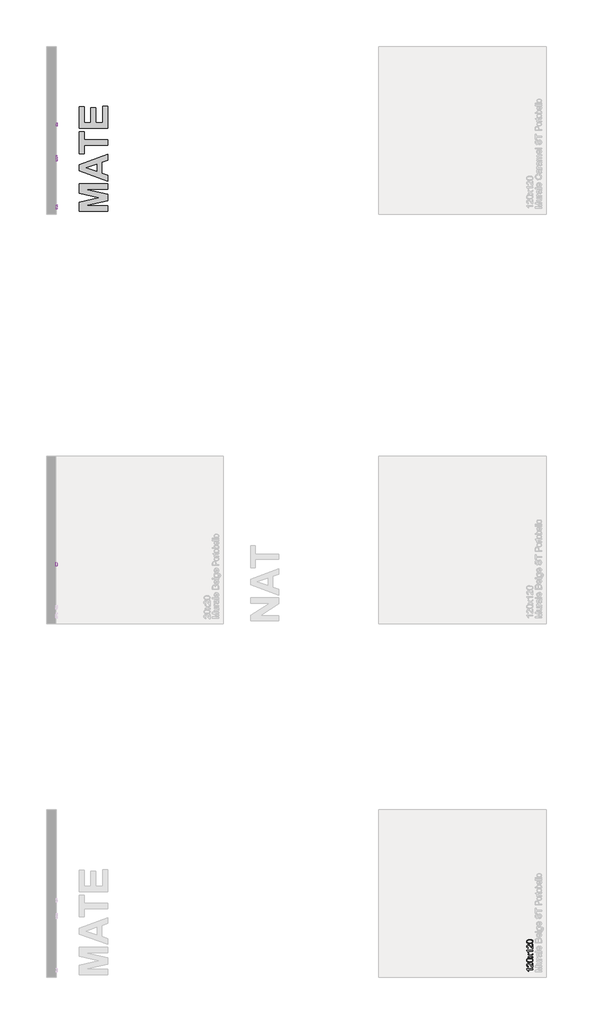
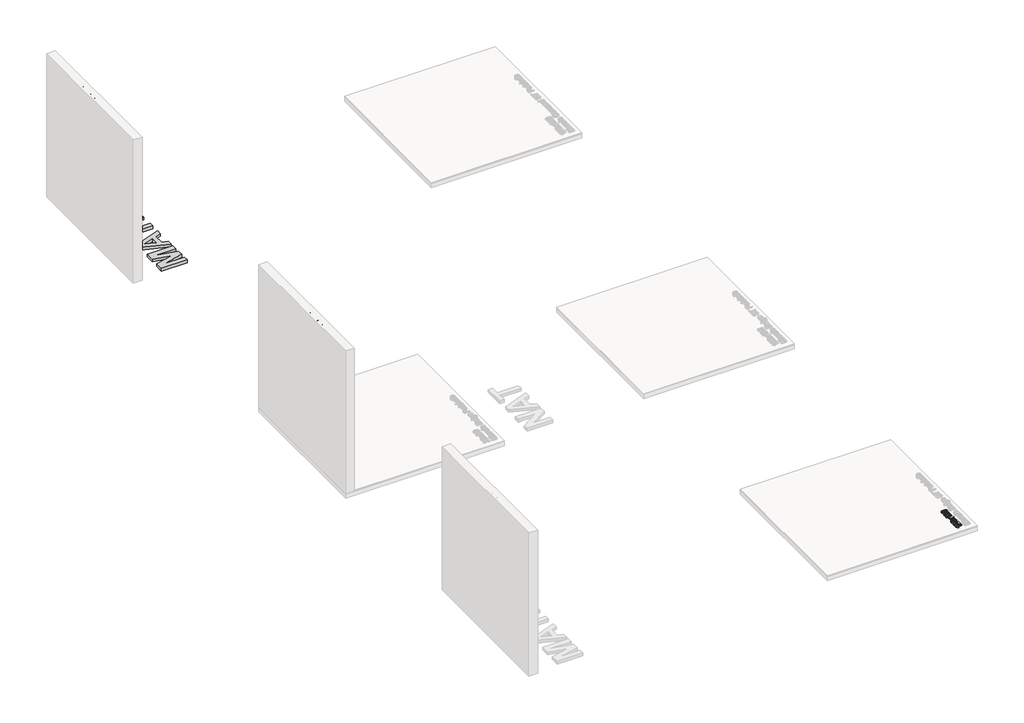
# One storey, part 12 of 21: 6 proxies.
"""IFC4 building model written with IfcOpenShell, lengths in millimetres."""

import ifcopenshell
import ifcopenshell.guid

model = None  # the IFC model being written
_history = None  # IfcOwnerHistory: only IFC2X3 demands one
_inside = {}  # id of a spatial element -> (the spatial element, [elements in it])
_under = {}  # id of a project, library or spatial element -> (it, [spatial elements below it])
_declared = {}  # id of a project -> (the project, [libraries it declares])
_typed = {}  # id of a type object -> (the type object, [elements of that type])
_made_of = {}  # id of a material, layer set ... -> (it, [elements and type objects made of it])


def new_model(schema):
    """Start an empty IFC model of exactly this schema.

    Asked for "IFC4X3", IfcOpenShell would pick the latest addendum, in which some entities
    have other attributes; the version numbers below select the first issue.
    IFC2X3 requires an IfcOwnerHistory on every rooted entity: one is made here for all.
    """
    global model, _history
    if schema == "IFC4X3":
        model = ifcopenshell.file(schema_version=(4, 3, 0, 0))
    else:
        model = ifcopenshell.file(schema=schema)
    _inside.clear()
    _under.clear()
    _declared.clear()
    _typed.clear()
    _made_of.clear()
    _history = None
    if model.schema == "IFC2X3":
        org = make("IfcOrganization", Name="unknown")
        user = make(
            "IfcPersonAndOrganization",
            ThePerson=make("IfcPerson", FamilyName="unknown"),
            TheOrganization=org,
        )
        app = make(
            "IfcApplication",
            ApplicationDeveloper=org,
            Version="unknown",
            ApplicationFullName="unknown",
            ApplicationIdentifier="unknown",
        )
        _history = make(
            "IfcOwnerHistory",
            OwningUser=user,
            OwningApplication=app,
            ChangeAction="ADDED",
            CreationDate=0,
        )
    return model


def make(cls, **values):
    """One entity of the class cls with the attributes given. An attribute that is None is left unset."""
    return model.create_entity(
        cls, **{name: value for name, value in values.items() if value is not None}
    )


def rooted(cls, **values):
    """An entity with a GlobalId (a new one), such as an element, a storey or a relation."""
    return make(cls, GlobalId=ifcopenshell.guid.new(), OwnerHistory=_history, **values)


def si_unit(unit_type, name, prefix=None):
    """IfcSIUnit, for example si_unit("LENGTHUNIT", "METRE", prefix="MILLI")."""
    return make("IfcSIUnit", UnitType=unit_type, Prefix=prefix, Name=name)


def assignment(units):
    """IfcUnitAssignment: the units of a project."""
    return None if units is None else make("IfcUnitAssignment", Units=units)


def point(xyz):
    """IfcCartesianPoint."""
    return None if xyz is None else make("IfcCartesianPoint", Coordinates=xyz)


def direction(xyz):
    """IfcDirection."""
    return None if xyz is None else make("IfcDirection", DirectionRatios=xyz)


def frame(location, z_axis=None, x_axis=None):
    """IfcAxis2Placement3D, a coordinate frame: its origin and axes. An axis left out is left unset."""
    return make(
        "IfcAxis2Placement3D",
        Location=point(location),
        Axis=direction(z_axis),
        RefDirection=direction(x_axis),
    )


def origin():
    """The frame at (0, 0, 0) with its axes left unset."""
    return frame((0.0, 0.0, 0.0))


def origin_with_axes():
    """The frame at (0, 0, 0) with the z axis (0, 0, 1) and the x axis (1, 0, 0) written out."""
    return frame((0.0, 0.0, 0.0), z_axis=(0.0, 0.0, 1.0), x_axis=(1.0, 0.0, 0.0))


def place(relative_to, where):
    """IfcLocalPlacement: puts the frame where relative to a parent placement (None: the world)."""
    return make(
        "IfcLocalPlacement", PlacementRelTo=relative_to, RelativePlacement=where
    )


def context(
    kind, dimensions, precision=None, world=None, true_north=None, identifier=None
):
    """IfcGeometricRepresentationContext, for example the 3D "Model" context."""
    return make(
        "IfcGeometricRepresentationContext",
        ContextIdentifier=identifier,
        ContextType=kind,
        CoordinateSpaceDimension=dimensions,
        Precision=precision,
        WorldCoordinateSystem=world,
        TrueNorth=true_north,
    )


def project(units=None, contexts=None):
    """IfcProject with its units and contexts."""
    return rooted(
        "IfcProject",
        Name="project",
        RepresentationContexts=contexts,
        UnitsInContext=assignment(units),
    )


def spatial(cls, under=None, at=None, **own):
    """A site, building, storey or space (cls), placed at a placement, below another one or the project."""
    s = rooted(cls, ObjectPlacement=at, **own)
    if under is not None:
        _under.setdefault(under.id(), (under, []))[1].append(s)
    return s


def polyline(points):
    """IfcPolyline through the points."""
    return make("IfcPolyline", Points=[point(p) for p in points])


def outline(outer, holes=None, kind="AREA"):
    """IfcArbitraryClosedProfileDef: a profile drawn as a closed curve; with holes, ...WithVoids."""
    if holes is None:
        return make("IfcArbitraryClosedProfileDef", ProfileType=kind, OuterCurve=outer)
    return make(
        "IfcArbitraryProfileDefWithVoids",
        ProfileType=kind,
        OuterCurve=outer,
        InnerCurves=holes,
    )


def extrude(swept, where, along, depth):
    """IfcExtrudedAreaSolid: the profile swept, set in the frame where, extruded along a direction by depth."""
    return make(
        "IfcExtrudedAreaSolid",
        SweptArea=swept,
        Position=where,
        ExtrudedDirection=direction(along),
        Depth=depth,
    )


def shape(context_of_items, identifier, shape_type, items):
    """IfcShapeRepresentation: the items that make up one representation, for example the "Body"."""
    return make(
        "IfcShapeRepresentation",
        ContextOfItems=context_of_items,
        RepresentationIdentifier=identifier,
        RepresentationType=shape_type,
        Items=items,
    )


def made_of(thing, what):
    """Note that an element or type object is made of a material, layer set ...; save() writes the relation."""
    if what is not None:
        _made_of.setdefault(what.id(), (what, []))[1].append(thing)
    return thing


def element(
    cls,
    number,
    at=None,
    inside=None,
    cuts=None,
    type_object=None,
    material=None,
    context=None,
    identifier="Body",
    shape_type=None,
    held_by="IfcProductDefinitionShape",
    body=None,
    shapes=None,
    **own,
):
    """One element of the class cls, such as IfcWall. Its Tag is "e" and its number.

    at: its placement. inside: the storey or other place that contains it. cuts: it is an
    opening in that element (IfcRelVoidsElement). A single representation is given by context,
    identifier, shape_type and body (its items); several are given by shapes. held_by: the class
    of the entity that holds the representations. save() writes the other relations.
    """
    e = rooted(cls, Tag="e%d" % number, ObjectPlacement=at, **own)
    if body is not None:
        shapes = [shape(context, identifier, shape_type, body)]
    if shapes is not None:
        e.Representation = make(held_by, Representations=shapes)
    if inside is not None:
        _inside.setdefault(inside.id(), (inside, []))[1].append(e)
    if cuts is not None:
        rooted(
            "IfcRelVoidsElement", RelatingBuildingElement=cuts, RelatedOpeningElement=e
        )
    if type_object is not None:
        _typed.setdefault(type_object.id(), (type_object, []))[1].append(e)
    return made_of(e, material)


def aggregate(whole, parts):
    """IfcRelAggregates: a whole, such as a stair, and the parts it consists of."""
    return rooted("IfcRelAggregates", RelatingObject=whole, RelatedObjects=parts)


def save(model, path):
    """Write the relations noted so far, then the file.

    IfcRelAggregates (storeys below a building ...), IfcRelContainedInSpatialStructure (elements
    in a storey), IfcRelDefinesByType, IfcRelAssociatesMaterial and IfcRelDeclares: one each for
    every whole, place, type object, material and project.
    """
    for whole, parts in _under.values():
        aggregate(whole, parts)
    for where, things in _inside.values():
        rooted(
            "IfcRelContainedInSpatialStructure",
            RelatedElements=things,
            RelatingStructure=where,
        )
    for kind, things in _typed.values():
        rooted("IfcRelDefinesByType", RelatedObjects=things, RelatingType=kind)
    for what, things in _made_of.values():
        rooted("IfcRelAssociatesMaterial", RelatedObjects=things, RelatingMaterial=what)
    for by, libraries in _declared.values():
        rooted("IfcRelDeclares", RelatingContext=by, RelatedDefinitions=libraries)
    model.write(path)


model = new_model("IFC4")

# Units and contexts
model_context = context("Model", 3, world=origin())
ifc_project = project(units=[si_unit("LENGTHUNIT", "METRE", prefix="MILLI")], contexts=[model_context])

# Site, building, storey
site = spatial("IfcSite", under=ifc_project)
building = spatial("IfcBuilding", under=site)
storey = spatial("IfcBuildingStorey", under=building, Name="PORTOBELLO - SHOWROOM", Elevation=0.0)

# Proxies
placement = place(None, origin())
element("IfcBuildingElementProxy", 1, Name="10mm Arial", ObjectType="10mm Arial", at=placement, inside=storey, context=model_context, shape_type="SweptSolid", body=[
    extrude(outline(polyline([(23019.4374935, 17012.2496861), (23019.4374935, 16999.6926473), (22941.1522049, 16999.6926473), (22949.6257535, 16987.7977962), (22955.9655865, 16974.5785698), (22944.0952608, 16974.5785698), (22932.3475625, 16992.9849323), (22918.9811833, 17004.1562822), (22918.9811833, 17012.2496861), (23019.4374935, 17012.2496861)])), frame((0.0, 0.0, 17.0), z_axis=(0.0, 0.0, 1.0), x_axis=(1.0, 0.0, 0.0)), (0.0, 0.0, 1.0), 20.0),
    extrude(outline(polyline([(23006.8804547, 17106.4274769), (23019.4374935, 17106.4274769), (23019.4374935, 17040.5030233), (23010.7800038, 17041.851924), (22997.4504129, 17049.4916067), (22982.8945486, 17065.2246934), (22961.9743258, 17086.8929429), (22947.7495553, 17092.3008083), (22936.2348489, 17087.1872485), (22931.5382221, 17073.8331321), (22936.1244843, 17059.9149299), (22948.8041504, 17054.6296919), (22947.2345205, 17042.0726532), (22935.0882833, 17045.1168767), (22926.2161959, 17051.6988987), (22920.7899364, 17061.4753627), (22918.9811833, 17074.1029122), (22920.9922715, 17086.8224322), (22927.0255363, 17096.5805021), (22936.0386451, 17102.7885108), (22946.9892659, 17104.857847), (22958.8963798, 17102.6260296), (22971.2081639, 17095.207076), (22988.4127785, 17077.2176465), (23000.4915707, 17062.7721468), (23006.8804547, 17057.106764), (23006.8804547, 17106.4274769)])), frame((0.0, 0.0, 17.0), z_axis=(0.0, 0.0, 1.0), x_axis=(1.0, 0.0, 0.0)), (0.0, 0.0, 1.0), 20.0),
    extrude(outline(polyline([(22970.0186788, 17118.9845156), (22941.1154167, 17122.6755983), (22924.4503623, 17133.6384818), (22918.9811833, 17151.9467424), (22922.2185449, 17166.6129713), (22931.5504848, 17176.7419889), (22946.4129174, 17182.6281008), (22970.0186788, 17184.9089692), (22998.7993135, 17181.2546747), (23015.5011561, 17170.3285794), (23019.6306315, 17162.0972198), (23021.0071233, 17151.9467424), (23018.6158903, 17138.8991943), (23011.4421914, 17128.9909059), (22994.4521746, 17121.4861132), (22970.0186788, 17118.9845156)]), holes=[polyline([(22969.9941533, 17131.5415544), (22989.7463508, 17133.0130824), (23001.1782838, 17137.4276663), (23006.6321343, 17144.0004913), (23008.4500845, 17151.9467424), (23006.626003, 17159.8929935), (23001.1537583, 17166.4658185), (22989.7156939, 17170.8804024), (22969.9941533, 17172.3519304), (22950.6864799, 17170.9294534), (22939.1656421, 17166.6620222), (22933.4450771, 17160.10146), (22931.5382221, 17151.7995896), (22933.2182165, 17143.9391776), (22938.2581998, 17137.6238701), (22950.4964076, 17133.0621333), (22969.9941533, 17131.5415544)])]), frame((0.0, 0.0, 17.0), z_axis=(0.0, 0.0, 1.0), x_axis=(1.0, 0.0, 0.0)), (0.0, 0.0, 1.0), 20.0),
    extrude(outline(polyline([(23019.4374935, 17191.1874886), (22982.3304629, 17218.0183487), (22945.6648907, 17192.7571184), (22945.6648907, 17207.8157547), (22963.3477519, 17220.0049115), (22971.661885, 17225.7193452), (22964.8438054, 17230.6734894), (22945.6648907, 17244.5549033), (22945.6648907, 17259.6625906), (22982.3549883, 17233.126036), (23019.4374935, 17258.6815719), (23019.4374935, 17243.5984101), (22997.1193191, 17228.1964173), (22993.0235662, 17225.4005141), (23019.4374935, 17206.2951758), (23019.4374935, 17191.1874886)])), frame((0.0, 0.0, 17.0), z_axis=(0.0, 0.0, 1.0), x_axis=(1.0, 0.0, 0.0)), (0.0, 0.0, 1.0), 20.0),
    extrude(outline(polyline([(23019.4374935, 17313.6186166), (23019.4374935, 17301.0615778), (22941.1522049, 17301.0615778), (22949.6257535, 17289.1667266), (22955.9655865, 17275.9475002), (22944.0952608, 17275.9475002), (22932.3475625, 17294.3538627), (22918.9811833, 17305.5252127), (22918.9811833, 17313.6186166), (23019.4374935, 17313.6186166)])), frame((0.0, 0.0, 17.0), z_axis=(0.0, 0.0, 1.0), x_axis=(1.0, 0.0, 0.0)), (0.0, 0.0, 1.0), 20.0),
    extrude(outline(polyline([(23006.8804547, 17407.7964073), (23019.4374935, 17407.7964073), (23019.4374935, 17341.8719538), (23010.7800038, 17343.2208544), (22997.4504129, 17350.8605372), (22982.8945486, 17366.5936239), (22961.9743258, 17388.2618734), (22947.7495553, 17393.6697387), (22936.2348489, 17388.556179), (22931.5382221, 17375.2020625), (22936.1244843, 17361.2838604), (22948.8041504, 17355.9986224), (22947.2345205, 17343.4415836), (22935.0882833, 17346.4858071), (22926.2161959, 17353.0678292), (22920.7899364, 17362.8442932), (22918.9811833, 17375.4718427), (22920.9922715, 17388.1913627), (22927.0255363, 17397.9494326), (22936.0386451, 17404.1574412), (22946.9892659, 17406.2267775), (22958.8963798, 17403.99496), (22971.2081639, 17396.5760065), (22988.4127785, 17378.5865769), (23000.4915707, 17364.1410772), (23006.8804547, 17358.4756945), (23006.8804547, 17407.7964073)])), frame((0.0, 0.0, 17.0), z_axis=(0.0, 0.0, 1.0), x_axis=(1.0, 0.0, 0.0)), (0.0, 0.0, 1.0), 20.0),
    extrude(outline(polyline([(22970.0186788, 17420.3534461), (22941.1154167, 17424.0445288), (22924.4503623, 17435.0074122), (22918.9811833, 17453.3156729), (22922.2185449, 17467.9819017), (22931.5504848, 17478.1109193), (22946.4129174, 17483.9970313), (22970.0186788, 17486.2778996), (22998.7993135, 17482.6236051), (23015.5011561, 17471.6975099), (23019.6306315, 17463.4661502), (23021.0071233, 17453.3156729), (23018.6158903, 17440.2681248), (23011.4421914, 17430.3598364), (22994.4521746, 17422.8550437), (22970.0186788, 17420.3534461)]), holes=[polyline([(22969.9941533, 17432.9104849), (22989.7463508, 17434.3820128), (23001.1782838, 17438.7965968), (23006.6321343, 17445.3694218), (23008.4500845, 17453.3156729), (23006.626003, 17461.2619239), (23001.1537583, 17467.8347489), (22989.7156939, 17472.2493329), (22969.9941533, 17473.7208609), (22950.6864799, 17472.2983838), (22939.1656421, 17468.0309527), (22933.4450771, 17461.4703904), (22931.5382221, 17453.1685201), (22933.2182165, 17445.3081081), (22938.2581998, 17438.9928005), (22950.4964076, 17434.4310638), (22969.9941533, 17432.9104849)])]), frame((0.0, 0.0, 17.0), z_axis=(0.0, 0.0, 1.0), x_axis=(1.0, 0.0, 0.0)), (0.0, 0.0, 1.0), 20.0),
])
element("IfcBuildingElementProxy", 2, Name="10mm Arial", ObjectType="10mm Arial", at=placement, inside=storey, context=model_context, shape_type="SweptSolid", body=[
    extrude(outline(polyline([(29265.0222015, 2518.4745677), (29265.0222015, 2618.9308778), (29286.555561, 2618.9308778), (29307.1569527, 2548.1258565), (29311.326282, 2533.3370003), (29315.8144423, 2549.3521298), (29336.0234266, 2618.9308778), (29357.6303624, 2618.9308778), (29357.6303624, 2518.4745677), (29345.0733237, 2518.4745677), (29345.0733237, 2606.373839), (29319.8366188, 2518.4745677), (29302.8404706, 2518.4745677), (29277.5792403, 2606.373839), (29277.5792403, 2518.4745677), (29265.0222015, 2518.4745677)])), frame((15340.268651, 0.0, 0.0), z_axis=(1.0, 0.0, 0.0), x_axis=(0.0, 1.0, 0.0)), (0.0, 0.0, 1.0), 20.0),
    extrude(outline(polyline([(29425.1244458, 2518.4745677), (29425.1244458, 2531.1542338), (29415.2897338, 2520.4672618), (29402.4629149, 2516.9049378), (29390.6539029, 2519.4065354), (29382.511448, 2525.6850548), (29378.7713144, 2534.9311556), (29378.0355504, 2546.6052776), (29378.0355504, 2592.2471704), (29390.5925892, 2592.2471704), (29390.5925892, 2552.515915), (29391.3528787, 2539.7136215), (29396.3192856, 2532.1965661), (29405.675751, 2529.4619766), (29416.1603879, 2532.2578797), (29423.0888321, 2539.873037), (29425.1244458, 2553.8648156), (29425.1244458, 2592.2471704), (29437.6814846, 2592.2471704), (29437.6814846, 2518.4745677), (29425.1244458, 2518.4745677)])), frame((15340.268651, 0.0, 0.0), z_axis=(1.0, 0.0, 0.0), x_axis=(0.0, 1.0, 0.0)), (0.0, 0.0, 1.0), 20.0),
    extrude(outline(polyline([(29454.9474129, 2518.4745677), (29454.9474129, 2592.2471704), (29465.9348218, 2592.2471704), (29465.9348218, 2581.3333379), (29473.7339201, 2591.3887791), (29481.5820693, 2593.8168003), (29494.188159, 2589.9417766), (29489.9943043, 2578.6845875), (29481.1651364, 2581.2597615), (29474.0650139, 2578.7826894), (29469.5400654, 2571.9155588), (29467.5044517, 2557.24933), (29467.5044517, 2518.4745677), (29454.9474129, 2518.4745677)])), frame((15340.268651, 0.0, 0.0), z_axis=(1.0, 0.0, 0.0), x_axis=(0.0, 1.0, 0.0)), (0.0, 0.0, 1.0), 20.0),
    extrude(outline(polyline([(29549.1252037, 2527.8923467), (29536.9483096, 2519.3820099), (29523.4960913, 2516.9049378), (29513.0022574, 2518.3948599), (29505.2614071, 2522.8646261), (29500.4881382, 2529.6520489), (29498.8970486, 2538.0949407), (29501.3005443, 2548.0277546), (29507.6158519, 2555.2382417), (29516.4082316, 2559.3585201), (29527.2730131, 2561.246981), (29549.0516273, 2565.563463), (29549.1252037, 2568.3593662), (29545.6671129, 2577.6299925), (29531.785699, 2581.2597615), (29519.0815074, 2578.8440031), (29513.0237172, 2570.2723526), (29500.4666784, 2571.8419824), (29505.8990692, 2584.1047156), (29516.8374272, 2591.2906772), (29533.4043797, 2593.8168003), (29548.6224316, 2591.5849828), (29557.2186076, 2585.9809138), (29561.0691058, 2577.4583142), (29561.6822424, 2566.4709053), (29561.6822424, 2550.8481832), (29562.3199046, 2529.0327809), (29564.8215021, 2518.4745677), (29552.2644634, 2518.4745677), (29549.1252037, 2527.8923467)]), holes=[polyline([(29549.1252037, 2553.0064243), (29528.8671685, 2549.1559261), (29518.0637005, 2547.1203124), (29513.17087, 2543.8093744), (29511.4540874, 2538.9778575), (29515.194221, 2532.1843033), (29526.1693672, 2529.4619766), (29538.8735587, 2532.4663462), (29547.0650645, 2539.738147), (29549.0516273, 2549.4502317), (29549.1252037, 2553.0064243)])]), frame((15340.268651, 0.0, 0.0), z_axis=(1.0, 0.0, 0.0), x_axis=(0.0, 1.0, 0.0)), (0.0, 0.0, 1.0), 20.0),
    extrude(outline(polyline([(15360.268651, 29591.5052095), (15360.268651, 29578.9481707), (15340.268651, 29578.9481707), (15340.268651, 29591.5052095), (15360.268651, 29591.5052095)])), frame((0.0, 0.0, 2518.4745677), z_axis=(0.0, 0.0, 1.0), x_axis=(1.0, 0.0, 0.0)), (0.0, 0.0, 1.0), 100.4563101),
    extrude(outline(polyline([(29661.9913998, 2540.4493855), (29674.3031839, 2538.8797557), (29669.8671402, 2529.602998), (29662.7884774, 2522.6684224), (29653.2266112, 2518.345809), (29641.3409571, 2516.9049378), (29626.6072832, 2519.391207), (29615.2703864, 2526.8500144), (29608.0415052, 2538.7969822), (29605.6318781, 2554.7477324), (29608.0660307, 2571.2349771), (29615.3684883, 2583.5651553), (29626.5521009, 2591.253889), (29640.6297186, 2593.8168003), (29654.2689436, 2591.2600204), (29665.1674477, 2583.5896808), (29672.3135554, 2571.2840281), (29674.6955913, 2554.8213088), (29674.6220149, 2551.4367944), (29618.1889169, 2551.4367944), (29620.3624863, 2542.0374095), (29625.4116667, 2535.1273593), (29632.6987959, 2530.8783223), (29641.5862118, 2529.4619766), (29653.8979959, 2532.0862015), (29661.9913998, 2540.4493855)]), holes=[polyline([(29618.1889169, 2563.9938332), (29662.1385526, 2563.9938332), (29657.110832, 2575.3736496), (29649.7899803, 2579.7882335), (29640.5806677, 2581.2597615), (29625.1173611, 2576.5631347), (29620.2521217, 2571.0724959), (29618.1889169, 2563.9938332)])]), frame((15340.268651, 0.0, 0.0), z_axis=(1.0, 0.0, 0.0), x_axis=(0.0, 1.0, 0.0)), (0.0, 0.0, 1.0), 20.0),
    extrude(outline(polyline([(29798.6963492, 2554.1836467), (29811.253388, 2550.9462851), (29805.4592465, 2536.3137787), (29796.3664299, 2525.6237411), (29784.4225278, 2519.0846386), (29770.07513, 2516.9049378), (29755.5100686, 2518.5542754), (29743.9432456, 2523.5022883), (29735.0772895, 2531.5772981), (29728.6148291, 2542.6076265), (29723.3541166, 2569.4630122), (29724.840973, 2584.110847), (29729.3015422, 2596.7598562), (29736.5028322, 2607.0084355), (29746.2118512, 2614.4549802), (29757.7265577, 2618.9891258), (29770.3449101, 2620.5005077), (29784.1128938, 2618.5446017), (29795.4957758, 2612.6768839), (29804.137937, 2603.2591048), (29809.6837581, 2590.6530151), (29797.1267193, 2587.6609082), (29786.8260235, 2603.0996893), (29769.8544008, 2607.9434689), (29750.2095022, 2602.5723918), (29739.1117287, 2588.1514175), (29735.9111553, 2569.4875377), (29739.7003399, 2547.8560763), (29751.4970892, 2534.0359761), (29768.8243312, 2529.4619766), (29779.3059024, 2531.0193437), (29788.0400341, 2535.691445), (29794.6343188, 2543.4292297), (29798.6963492, 2554.1836467)])), frame((15340.268651, 0.0, 0.0), z_axis=(1.0, 0.0, 0.0), x_axis=(0.0, 1.0, 0.0)), (0.0, 0.0, 1.0), 20.0),
    extrude(outline(polyline([(29874.0385818, 2527.8923467), (29861.8616878, 2519.3820099), (29848.4094695, 2516.9049378), (29837.9156356, 2518.3948599), (29830.1747852, 2522.8646261), (29825.4015164, 2529.6520489), (29823.8104267, 2538.0949407), (29826.2139224, 2548.0277546), (29832.52923, 2555.2382417), (29841.3216097, 2559.3585201), (29852.1863913, 2561.246981), (29873.9650054, 2565.563463), (29874.0385818, 2568.3593662), (29870.580491, 2577.6299925), (29856.6990771, 2581.2597615), (29843.9948855, 2578.8440031), (29837.9370953, 2570.2723526), (29825.3800566, 2571.8419824), (29830.8124474, 2584.1047156), (29841.7508054, 2591.2906772), (29858.3177579, 2593.8168003), (29873.5358097, 2591.5849828), (29882.1319857, 2585.9809138), (29885.9824839, 2577.4583142), (29886.5956206, 2566.4709053), (29886.5956206, 2550.8481832), (29887.2332827, 2529.0327809), (29889.7348803, 2518.4745677), (29877.1778415, 2518.4745677), (29874.0385818, 2527.8923467)]), holes=[polyline([(29874.0385818, 2553.0064243), (29853.7805466, 2549.1559261), (29842.9770787, 2547.1203124), (29838.0842481, 2543.8093744), (29836.3674655, 2538.9778575), (29840.1075991, 2532.1843033), (29851.0827453, 2529.4619766), (29863.7869369, 2532.4663462), (29871.9784426, 2539.738147), (29873.9650054, 2549.4502317), (29874.0385818, 2553.0064243)])]), frame((15340.268651, 0.0, 0.0), z_axis=(1.0, 0.0, 0.0), x_axis=(0.0, 1.0, 0.0)), (0.0, 0.0, 1.0), 20.0),
    extrude(outline(polyline([(29903.8615489, 2518.4745677), (29903.8615489, 2592.2471704), (29914.8489578, 2592.2471704), (29914.8489578, 2581.3333379), (29922.6480561, 2591.3887791), (29930.4962053, 2593.8168003), (29943.102295, 2589.9417766), (29938.9084403, 2578.6845875), (29930.0792724, 2581.2597615), (29922.9791499, 2578.7826894), (29918.4542013, 2571.9155588), (29916.4185876, 2557.24933), (29916.4185876, 2518.4745677), (29903.8615489, 2518.4745677)])), frame((15340.268651, 0.0, 0.0), z_axis=(1.0, 0.0, 0.0), x_axis=(0.0, 1.0, 0.0)), (0.0, 0.0, 1.0), 20.0),
    extrude(outline(polyline([(29998.0393396, 2527.8923467), (29985.8624456, 2519.3820099), (29972.4102273, 2516.9049378), (29961.9163934, 2518.3948599), (29954.1755431, 2522.8646261), (29949.4022742, 2529.6520489), (29947.8111846, 2538.0949407), (29950.2146803, 2548.0277546), (29956.5299879, 2555.2382417), (29965.3223675, 2559.3585201), (29976.1871491, 2561.246981), (29997.9657632, 2565.563463), (29998.0393396, 2568.3593662), (29994.5812489, 2577.6299925), (29980.6998349, 2581.2597615), (29967.9956434, 2578.8440031), (29961.9378532, 2570.2723526), (29949.3808144, 2571.8419824), (29954.8132052, 2584.1047156), (29965.7515632, 2591.2906772), (29982.3185157, 2593.8168003), (29997.5365676, 2591.5849828), (30006.1327435, 2585.9809138), (30009.9832417, 2577.4583142), (30010.5963784, 2566.4709053), (30010.5963784, 2550.8481832), (30011.2340405, 2529.0327809), (30013.7356381, 2518.4745677), (30001.1785993, 2518.4745677), (29998.0393396, 2527.8923467)]), holes=[polyline([(29998.0393396, 2553.0064243), (29977.7813044, 2549.1559261), (29966.9778365, 2547.1203124), (29962.085006, 2543.8093744), (29960.3682233, 2538.9778575), (29964.108357, 2532.1843033), (29975.0835031, 2529.4619766), (29987.7876947, 2532.4663462), (29995.9792005, 2539.738147), (29997.9657632, 2549.4502317), (29998.0393396, 2553.0064243)])]), frame((15340.268651, 0.0, 0.0), z_axis=(1.0, 0.0, 0.0), x_axis=(0.0, 1.0, 0.0)), (0.0, 0.0, 1.0), 20.0),
    extrude(outline(polyline([(30027.8623067, 2518.4745677), (30027.8623067, 2592.2471704), (30040.4193455, 2592.2471704), (30040.4193455, 2580.1070646), (30049.0523096, 2590.0521412), (30061.3395683, 2593.8168003), (30073.9211325, 2589.9785648), (30080.837314, 2579.2241478), (30090.6352378, 2590.1686372), (30103.0083356, 2593.8168003), (30112.4475745, 2592.299287), (30119.4281353, 2587.7467474), (30123.7415517, 2580.0365539), (30125.1793572, 2569.0460793), (30125.1793572, 2518.4745677), (30112.6223184, 2518.4745677), (30112.6223184, 2563.6504767), (30111.4573588, 2574.1351135), (30107.2389785, 2579.2977242), (30100.0652796, 2581.2597615), (30087.7167073, 2576.2320409), (30084.0286903, 2569.6898728), (30082.7993513, 2560.1188095), (30082.7993513, 2518.4745677), (30070.2423126, 2518.4745677), (30070.2423126, 2565.0484283), (30067.3360448, 2577.2130596), (30057.8079011, 2581.2597615), (30048.5127494, 2578.5619602), (30042.3323319, 2570.66476), (30040.4193455, 2555.6797001), (30040.4193455, 2518.4745677), (30027.8623067, 2518.4745677)])), frame((15340.268651, 0.0, 0.0), z_axis=(1.0, 0.0, 0.0), x_axis=(0.0, 1.0, 0.0)), (0.0, 0.0, 1.0), 20.0),
    extrude(outline(polyline([(30195.6655474, 2540.4493855), (30207.9773316, 2538.8797557), (30203.5412878, 2529.602998), (30196.4626251, 2522.6684224), (30186.9007589, 2518.345809), (30175.0151048, 2516.9049378), (30160.2814309, 2519.391207), (30148.9445341, 2526.8500144), (30141.7156529, 2538.7969822), (30139.3060258, 2554.7477324), (30141.7401783, 2571.2349771), (30149.0426359, 2583.5651553), (30160.2262486, 2591.253889), (30174.3038663, 2593.8168003), (30187.9430912, 2591.2600204), (30198.8415953, 2583.5896808), (30205.9877031, 2571.2840281), (30208.369739, 2554.8213088), (30208.2961626, 2551.4367944), (30151.8630646, 2551.4367944), (30154.036634, 2542.0374095), (30159.0858144, 2535.1273593), (30166.3729436, 2530.8783223), (30175.2603594, 2529.4619766), (30187.5721436, 2532.0862015), (30195.6655474, 2540.4493855)]), holes=[polyline([(30151.8630646, 2563.9938332), (30195.8127002, 2563.9938332), (30190.7849796, 2575.3736496), (30183.4641279, 2579.7882335), (30174.2548153, 2581.2597615), (30158.7915088, 2576.5631347), (30153.9262694, 2571.0724959), (30151.8630646, 2563.9938332)])]), frame((15340.268651, 0.0, 0.0), z_axis=(1.0, 0.0, 0.0), x_axis=(0.0, 1.0, 0.0)), (0.0, 0.0, 1.0), 20.0),
    extrude(outline(polyline([(15360.268651, 30233.4838166), (15360.268651, 30220.9267778), (15340.268651, 30220.9267778), (15340.268651, 30233.4838166), (15360.268651, 30233.4838166)])), frame((0.0, 0.0, 2518.4745677), z_axis=(0.0, 0.0, 1.0), x_axis=(1.0, 0.0, 0.0)), (0.0, 0.0, 1.0), 100.4563101),
    extrude(outline(polyline([(30340.2186461, 2557.7153138), (30340.2186461, 2570.2723526), (30381.0290221, 2570.2723526), (30381.0290221, 2532.7238636), (30360.8813515, 2520.8780634), (30339.580984, 2516.9049378), (30325.4941692, 2518.4837647), (30312.7623865, 2523.2202454), (30302.1857792, 2530.948833), (30294.5644905, 2541.5039806), (30289.9567685, 2554.1652526), (30288.4208612, 2568.2122134), (30289.9506371, 2582.3603418), (30294.539965, 2595.5213202), (30301.9987725, 2606.5608457), (30312.1369871, 2614.3446156), (30324.4855594, 2618.9615346), (30338.5754398, 2620.5005077), (30358.2203384, 2616.9320523), (30371.9913877, 2606.9992384), (30379.5820196, 2590.383235), (30368.0059995, 2587.121348), (30362.2793031, 2598.7341563), (30352.493642, 2605.4296086), (30338.3792361, 2607.9434689), (30322.3027929, 2605.2334049), (30311.3644349, 2598.1210196), (30304.9019745, 2588.4457231), (30300.9778999, 2568.7272482), (30305.6990522, 2546.8382695), (30319.4333134, 2533.7416705), (30338.5754398, 2529.4619766), (30355.755529, 2532.6870754), (30368.4719833, 2539.5664687), (30368.4719833, 2557.7153138), (30340.2186461, 2557.7153138)])), frame((15340.268651, 0.0, 0.0), z_axis=(1.0, 0.0, 0.0), x_axis=(0.0, 1.0, 0.0)), (0.0, 0.0, 1.0), 20.0),
    extrude(outline(polyline([(30399.8645802, 2518.4745677), (30399.8645802, 2592.2471704), (30410.8519892, 2592.2471704), (30410.8519892, 2581.3333379), (30418.6510875, 2591.3887791), (30426.4992367, 2593.8168003), (30439.1053264, 2589.9417766), (30434.9114716, 2578.6845875), (30426.0823038, 2581.2597615), (30418.9821813, 2578.7826894), (30414.4572327, 2571.9155588), (30412.421619, 2557.24933), (30412.421619, 2518.4745677), (30399.8645802, 2518.4745677)])), frame((15340.268651, 0.0, 0.0), z_axis=(1.0, 0.0, 0.0), x_axis=(0.0, 1.0, 0.0)), (0.0, 0.0, 1.0), 20.0),
    extrude(outline(polyline([(15360.268651, 30459.5105144), (15360.268651, 30446.9534756), (15340.268651, 30446.9534756), (15340.268651, 30459.5105144), (15360.268651, 30459.5105144)])), frame((0.0, 0.0, 2606.373839), z_axis=(0.0, 0.0, 1.0), x_axis=(1.0, 0.0, 0.0)), (0.0, 0.0, 1.0), 12.5570388),
    extrude(outline(polyline([(15360.268651, 30459.5105144), (15360.268651, 30446.9534756), (15340.268651, 30446.9534756), (15340.268651, 30459.5105144), (15360.268651, 30459.5105144)])), frame((0.0, 0.0, 2518.4745677), z_axis=(0.0, 0.0, 1.0), x_axis=(1.0, 0.0, 0.0)), (0.0, 0.0, 1.0), 73.7726028),
    extrude(outline(polyline([(30505.0297799, 2528.9469418), (30506.5994098, 2518.1066857), (30497.2061562, 2516.9049378), (30486.6847311, 2518.9896025), (30481.4362813, 2524.4587815), (30479.9157024, 2538.7080774), (30479.9157024, 2579.6901317), (30470.4979233, 2579.6901317), (30470.4979233, 2592.2471704), (30479.9157024, 2592.2471704), (30479.9157024, 2610.1752863), (30492.4727412, 2617.5574517), (30492.4727412, 2592.2471704), (30505.0297799, 2592.2471704), (30505.0297799, 2579.6901317), (30492.4727412, 2579.6901317), (30492.4727412, 2539.0759594), (30493.1349287, 2532.6012363), (30495.2809071, 2530.3081052), (30499.5606009, 2529.4619766), (30505.0297799, 2528.9469418)])), frame((15340.268651, 0.0, 0.0), z_axis=(1.0, 0.0, 0.0), x_axis=(0.0, 1.0, 0.0)), (0.0, 0.0, 1.0), 20.0),
])
element("IfcBuildingElementProxy", 3, Name="10mm Arial", ObjectType="10mm Arial", at=placement, inside=storey, context=model_context, shape_type="SweptSolid", body=[
    extrude(outline(polyline([(29301.123688, 2383.4745677), (29301.123688, 2407.0190154), (29255.6044224, 2407.0190154), (29255.6044224, 2419.5760541), (29304.2629477, 2482.361248), (29313.6807267, 2482.361248), (29313.6807267, 2419.5760541), (29326.2377655, 2419.5760541), (29326.2377655, 2407.0190154), (29313.6807267, 2407.0190154), (29313.6807267, 2383.4745677), (29301.123688, 2383.4745677)]), holes=[polyline([(29301.123688, 2419.5760541), (29301.123688, 2458.3753419), (29271.0554662, 2419.5760541), (29301.123688, 2419.5760541)])]), frame((15340.268651, 0.0, 0.0), z_axis=(1.0, 0.0, 0.0), x_axis=(0.0, 1.0, 0.0)), (0.0, 0.0, 1.0), 20.0),
    extrude(outline(polyline([(29337.2251744, 2410.158275), (29349.7822132, 2411.7279049), (29356.1097835, 2398.7907214), (29369.230908, 2394.4619766), (29378.2317542, 2395.9672271), (29384.9762574, 2400.4829786), (29389.1885063, 2407.4880649), (29390.5925892, 2416.4613199), (29385.3318767, 2431.3728034), (29378.7253292, 2435.4746877), (29369.4271117, 2436.8419824), (29358.4029146, 2434.6592159), (29351.3518431, 2428.9938332), (29338.7948043, 2430.563463), (29349.7822132, 2482.361248), (29398.4407384, 2482.361248), (29398.4407384, 2469.8042092), (29359.9357563, 2469.8042092), (29354.5401537, 2442.1394832), (29363.510343, 2447.5841367), (29372.909728, 2449.3990212), (29384.6451636, 2447.1488097), (29394.3940365, 2440.3981751), (29400.9607301, 2430.1097419), (29403.149628, 2417.2461348), (29401.1814593, 2404.6890961), (29395.2769533, 2393.9469418), (29383.9707133, 2384.9154388), (29369.1818571, 2381.9049378), (29356.8486132, 2383.839384), (29347.0230982, 2389.6427224), (29340.287792, 2398.6405029), (29337.2251744, 2410.158275)])), frame((15340.268651, 0.0, 0.0), z_axis=(1.0, 0.0, 0.0), x_axis=(0.0, 1.0, 0.0)), (0.0, 0.0, 1.0), 20.0),
    extrude(outline(polyline([(29409.4281474, 2383.4745677), (29436.2590075, 2420.5815982), (29410.9977772, 2457.2471704), (29426.0564135, 2457.2471704), (29438.2455703, 2439.5643092), (29443.960004, 2431.2501761), (29448.9141482, 2438.0682557), (29462.7955621, 2457.2471704), (29477.9032494, 2457.2471704), (29451.3666948, 2420.5570728), (29476.9222307, 2383.4745677), (29461.8390689, 2383.4745677), (29446.4370761, 2405.792742), (29443.6411729, 2409.8884949), (29424.5358346, 2383.4745677), (29409.4281474, 2383.4745677)])), frame((15340.268651, 0.0, 0.0), z_axis=(1.0, 0.0, 0.0), x_axis=(0.0, 1.0, 0.0)), (0.0, 0.0, 1.0), 20.0),
    extrude(outline(polyline([(29531.8592754, 2383.4745677), (29519.3022366, 2383.4745677), (29519.3022366, 2461.7598562), (29507.4073854, 2453.2863076), (29494.188159, 2446.9464746), (29494.188159, 2458.8168003), (29512.5945215, 2470.5644987), (29523.7658715, 2483.9308778), (29531.8592754, 2483.9308778), (29531.8592754, 2383.4745677)])), frame((15340.268651, 0.0, 0.0), z_axis=(1.0, 0.0, 0.0), x_axis=(0.0, 1.0, 0.0)), (0.0, 0.0, 1.0), 20.0),
    extrude(outline(polyline([(29626.0370661, 2396.0316064), (29626.0370661, 2383.4745677), (29560.1126126, 2383.4745677), (29561.4615132, 2392.1320573), (29569.101196, 2405.4616482), (29584.8342827, 2420.0175125), (29606.5025322, 2440.9377353), (29611.9103975, 2455.1625058), (29606.7968378, 2466.6772122), (29593.4427213, 2471.373839), (29579.5245192, 2466.7875768), (29574.2392812, 2454.1079107), (29561.6822424, 2455.6775406), (29564.7264659, 2467.8237778), (29571.308488, 2476.6958652), (29581.084952, 2482.1221247), (29593.7125015, 2483.9308778), (29606.4320215, 2481.9197896), (29616.1900914, 2475.8865249), (29622.3981, 2466.873416), (29624.4674363, 2455.9227952), (29622.2356188, 2444.0156813), (29614.8166653, 2431.7038972), (29596.8272357, 2414.4992826), (29582.381736, 2402.4204904), (29576.7163533, 2396.0316064), (29626.0370661, 2396.0316064)])), frame((15340.268651, 0.0, 0.0), z_axis=(1.0, 0.0, 0.0), x_axis=(0.0, 1.0, 0.0)), (0.0, 0.0, 1.0), 20.0),
    extrude(outline(polyline([(29638.5941049, 2432.8933823), (29642.2851876, 2461.7966444), (29653.248071, 2478.4616988), (29671.5563317, 2483.9308778), (29686.2225605, 2480.6935163), (29696.3515781, 2471.3615763), (29702.2376901, 2456.4991437), (29704.5185584, 2432.8933823), (29700.8642639, 2404.1127476), (29689.9381687, 2387.410905), (29681.706809, 2383.2814296), (29671.5563317, 2381.9049378), (29658.5087836, 2384.2961708), (29648.6004952, 2391.4698697), (29641.0957025, 2408.4598865), (29638.5941049, 2432.8933823)]), holes=[polyline([(29651.1511437, 2432.9179078), (29652.6226716, 2413.1657104), (29657.0372556, 2401.7337774), (29663.6100806, 2396.2799268), (29671.5563317, 2394.4619766), (29679.5025827, 2396.2860581), (29686.0754077, 2401.7583028), (29690.4899917, 2413.1963672), (29691.9615197, 2432.9179078), (29690.5390426, 2452.2255812), (29686.2716115, 2463.746419), (29679.7110492, 2469.466984), (29671.4091789, 2471.373839), (29663.5487669, 2469.6938446), (29657.2334593, 2464.6538613), (29652.6717226, 2452.4156536), (29651.1511437, 2432.9179078)])]), frame((15340.268651, 0.0, 0.0), z_axis=(1.0, 0.0, 0.0), x_axis=(0.0, 1.0, 0.0)), (0.0, 0.0, 1.0), 20.0),
])
element("IfcBuildingElementProxy", 4, Name="10mm Arial Narrow", ObjectType="10mm Arial Narrow", at=placement, inside=storey, context=model_context, shape_type="SweptSolid", body=[
    extrude(outline(polyline([(23504.317037, 2516.1895903), (23504.317037, 2616.9081941), (23535.6139217, 2616.9081941), (23551.9096232, 2615.0298734), (23563.3826093, 2605.5494302), (23567.6722878, 2588.5303214), (23565.8859794, 2576.4544958), (23560.5270542, 2566.8281021), (23550.7832654, 2560.5268436), (23535.8423661, 2558.4264242), (23514.0639987, 2558.4264242), (23514.0639987, 2516.1895903), (23504.317037, 2516.1895903)]), holes=[polyline([(23514.0639987, 2569.7978794), (23537.0353536, 2569.7978794), (23552.899549, 2574.3286936), (23557.9253261, 2587.9972844), (23555.4505116, 2598.1630608), (23549.4728828, 2603.9630106), (23536.8069092, 2605.5367388), (23514.0639987, 2605.5367388), (23514.0639987, 2569.7978794)])]), frame((15333.968651, 0.0, 0.0), z_axis=(1.0, 0.0, 0.0), x_axis=(0.0, 1.0, 0.0)), (0.0, 0.0, 1.0), 20.0),
    extrude(outline(polyline([(23575.7947558, 2552.7406965), (23577.7492247, 2569.3314721), (23583.6126313, 2581.2835569), (23592.471198, 2588.5081115), (23603.4111472, 2590.9162964), (23614.2241828, 2588.5081115), (23623.1081322, 2581.2835569), (23629.0476869, 2569.5218424), (23631.0275385, 2553.5021779), (23629.0825882, 2536.3402913), (23623.2477371, 2524.1978362), (23614.3986889, 2516.9732816), (23603.4111472, 2514.5650967), (23592.550519, 2516.9796273), (23583.6760881, 2524.2232189), (23577.7650889, 2536.1816494), (23575.7947558, 2552.7406965)]), holes=[polyline([(23585.5417175, 2552.7660793), (23586.8457543, 2540.2143279), (23590.7578649, 2531.3430698), (23596.5990617, 2526.0698112), (23603.690357, 2524.3120584), (23610.4104302, 2526.0856754), (23616.1025035, 2531.4065266), (23619.9860585, 2540.2936488), (23621.2805769, 2552.7660793), (23619.97654, 2565.2797566), (23616.0644294, 2574.1383233), (23610.2232327, 2579.4115818), (23603.1319373, 2581.1693347), (23596.3642716, 2579.4020633), (23590.6817168, 2574.1002492), (23586.8267173, 2565.232164), (23585.5417175, 2552.7660793)])]), frame((15333.968651, 0.0, 0.0), z_axis=(1.0, 0.0, 0.0), x_axis=(0.0, 1.0, 0.0)), (0.0, 0.0, 1.0), 20.0),
    extrude(outline(polyline([(23702.5052573, 2524.3120584), (23704.1297509, 2514.5650967), (23696.7687643, 2514.5650967), (23688.4939999, 2516.6845532), (23684.1789388, 2522.4845031), (23683.011334, 2537.1303283), (23683.011334, 2579.5448411), (23674.888866, 2579.5448411), (23674.888866, 2582.7938283), (23673.2643724, 2577.9203475), (23665.700324, 2579.5448411), (23659.6211643, 2577.2223229), (23655.7503006, 2570.7370398), (23653.770449, 2555.3297332), (23653.770449, 2516.1895903), (23644.0234874, 2516.1895903), (23644.0234874, 2589.2918027), (23653.770449, 2589.2918027), (23653.770449, 2579.5956065), (23660.0145964, 2588.6826176), (23666.4110399, 2590.9162964), (23674.888866, 2589.2918027), (23683.011334, 2589.2918027), (23683.011334, 2605.5367388), (23692.7582957, 2613.6592069), (23692.7582957, 2589.2918027), (23702.5052573, 2589.2918027), (23702.5052573, 2579.5448411), (23692.7582957, 2579.5448411), (23692.7582957, 2534.8966496), (23693.6213079, 2526.9010951), (23698.2409616, 2524.3120584), (23702.5052573, 2524.3120584)])), frame((15333.968651, 0.0, 0.0), z_axis=(1.0, 0.0, 0.0), x_axis=(0.0, 1.0, 0.0)), (0.0, 0.0, 1.0), 20.0),
    extrude(outline(polyline([(23709.0032318, 2552.7406965), (23710.9577006, 2569.3314721), (23716.8211072, 2581.2835569), (23725.679674, 2588.5081115), (23736.6196231, 2590.9162964), (23747.4326587, 2588.5081115), (23756.3166081, 2581.2835569), (23762.2561629, 2569.5218424), (23764.2360145, 2553.5021779), (23762.2910641, 2536.3402913), (23756.456213, 2524.1978362), (23747.6071648, 2516.9732816), (23736.6196231, 2514.5650967), (23725.7589949, 2516.9796273), (23716.884564, 2524.2232189), (23710.9735648, 2536.1816494), (23709.0032318, 2552.7406965)]), holes=[polyline([(23718.7501934, 2552.7660793), (23720.0542303, 2540.2143279), (23723.9663409, 2531.3430698), (23729.8075376, 2526.0698112), (23736.8988329, 2524.3120584), (23743.6189061, 2526.0856754), (23749.3109794, 2531.4065266), (23753.1945345, 2540.2936488), (23754.4890528, 2552.7660793), (23753.1850159, 2565.2797566), (23749.2729054, 2574.1383233), (23743.4317086, 2579.4115818), (23736.3404133, 2581.1693347), (23729.5727475, 2579.4020633), (23723.8901927, 2574.1002492), (23720.0351932, 2565.232164), (23718.7501934, 2552.7660793)])]), frame((15333.968651, 0.0, 0.0), z_axis=(1.0, 0.0, 0.0), x_axis=(0.0, 1.0, 0.0)), (0.0, 0.0, 1.0), 20.0),
    extrude(outline(polyline([(23786.978925, 2516.1895903), (23777.2319633, 2516.1895903), (23777.2319633, 2616.9081941), (23786.978925, 2616.9081941), (23786.978925, 2581.49931), (23794.3779857, 2588.5810868), (23803.579219, 2590.9162964), (23816.4609457, 2586.7154574), (23825.7383272, 2573.986027), (23829.2157588, 2553.2991162), (23827.2834998, 2536.8447728), (23821.4867228, 2524.6420337), (23813.1136005, 2517.084331), (23803.4523055, 2514.5650967), (23794.1114672, 2517.1795161), (23786.978925, 2524.9466262), (23786.978925, 2516.1895903)]), holes=[polyline([(23786.978925, 2553.2991162), (23789.0603074, 2536.051563), (23794.9490967, 2527.3199098), (23803.4015401, 2524.3120584), (23809.3442677, 2526.1015396), (23814.582625, 2531.4699834), (23819.4687972, 2552.8929928), (23814.760304, 2574.3286936), (23809.515601, 2579.4591744), (23803.1984784, 2581.1693347), (23797.2208495, 2579.3798535), (23791.9285539, 2574.0114097), (23786.978925, 2553.2991162)])]), frame((15333.968651, 0.0, 0.0), z_axis=(1.0, 0.0, 0.0), x_axis=(0.0, 1.0, 0.0)), (0.0, 0.0, 1.0), 20.0),
    extrude(outline(polyline([(23881.1995543, 2538.9325009), (23890.946516, 2537.3080073), (23887.2469856, 2527.4214407), (23881.4279987, 2520.3015898), (23873.7243454, 2515.99922), (23864.3708158, 2514.5650967), (23852.7772618, 2516.9796273), (23843.6331396, 2524.2232189), (23837.6935848, 2536.0293531), (23835.7137332, 2552.1315114), (23837.7031034, 2568.7984351), (23843.6712137, 2580.9789644), (23852.6852495, 2588.4319634), (23863.8123961, 2590.9162964), (23874.4953453, 2588.51763), (23883.2428627, 2581.321631), (23889.0777137, 2569.5821264), (23891.0226641, 2553.5529433), (23890.946516, 2550.3039561), (23845.4606949, 2550.3039561), (23851.4637064, 2530.8607982), (23857.3937427, 2525.9492434), (23864.4977294, 2524.3120584), (23874.6761971, 2527.967169), (23881.1995543, 2538.9325009)]), holes=[polyline([(23846.1206454, 2560.0509178), (23881.1995543, 2560.0509178), (23876.9352586, 2574.3160023), (23871.109926, 2579.4560016), (23863.8885443, 2581.1693347), (23851.6794595, 2575.4582244), (23846.1206454, 2560.0509178)])]), frame((15333.968651, 0.0, 0.0), z_axis=(1.0, 0.0, 0.0), x_axis=(0.0, 1.0, 0.0)), (0.0, 0.0, 1.0), 20.0),
    extrude(outline(polyline([(15353.968651, 23913.6894265), (15353.968651, 23903.9424648), (15333.968651, 23903.9424648), (15333.968651, 23913.6894265), (15353.968651, 23913.6894265)])), frame((0.0, 0.0, 2516.1895903), z_axis=(0.0, 0.0, 1.0), x_axis=(1.0, 0.0, 0.0)), (0.0, 0.0, 1.0), 100.7186038),
    extrude(outline(polyline([(15353.968651, 23939.6813242), (15353.968651, 23929.9343626), (15333.968651, 23929.9343626), (15333.968651, 23939.6813242), (15353.968651, 23939.6813242)])), frame((0.0, 0.0, 2516.1895903), z_axis=(0.0, 0.0, 1.0), x_axis=(1.0, 0.0, 0.0)), (0.0, 0.0, 1.0), 100.7186038),
    extrude(outline(polyline([(23951.0527795, 2552.7406965), (23953.0072484, 2569.3314721), (23958.870655, 2581.2835569), (23967.7292217, 2588.5081115), (23978.6691708, 2590.9162964), (23989.4822064, 2588.5081115), (23998.3661558, 2581.2835569), (24004.3057106, 2569.5218424), (24006.2855622, 2553.5021779), (24004.3406118, 2536.3402913), (23998.5057608, 2524.1978362), (23989.6567126, 2516.9732816), (23978.6691708, 2514.5650967), (23967.8085427, 2516.9796273), (23958.9341118, 2524.2232189), (23953.0231125, 2536.1816494), (23951.0527795, 2552.7406965)]), holes=[polyline([(23960.7997411, 2552.7660793), (23962.103778, 2540.2143279), (23966.0158886, 2531.3430698), (23971.8570853, 2526.0698112), (23978.9483807, 2524.3120584), (23985.6684538, 2526.0856754), (23991.3605272, 2531.4065266), (23995.2440822, 2540.2936488), (23996.5386005, 2552.7660793), (23995.2345637, 2565.2797566), (23991.3224531, 2574.1383233), (23985.4812563, 2579.4115818), (23978.389961, 2581.1693347), (23971.6222952, 2579.4020633), (23965.9397404, 2574.1002492), (23962.084741, 2565.232164), (23960.7997411, 2552.7660793)])]), frame((15333.968651, 0.0, 0.0), z_axis=(1.0, 0.0, 0.0), x_axis=(0.0, 1.0, 0.0)), (0.0, 0.0, 1.0), 20.0),
])
element("IfcBuildingElementProxy", 5, Name="10mm Arial Narrow", ObjectType="10mm Arial Narrow", at=placement, inside=storey, context=model_context, shape_type="SweptSolid", body=[
    extrude(outline(polyline([(30586.9277964, 2518.4745677), (30586.9277964, 2615.7916181), (30617.1676964, 2615.7916181), (30632.9130458, 2613.9767336), (30643.9985566, 2604.8164719), (30648.1433604, 2588.3721467), (30646.4173807, 2576.7041561), (30641.2394416, 2567.402873), (30631.8247282, 2561.314426), (30617.3884256, 2559.2849437), (30596.3455754, 2559.2849437), (30596.3455754, 2518.4745677), (30586.9277964, 2518.4745677)]), holes=[polyline([(30596.3455754, 2570.2723526), (30618.5411225, 2570.2723526), (30633.869539, 2574.6501483), (30638.7255813, 2587.857112), (30636.3343483, 2597.6795612), (30630.558601, 2603.2836303), (30618.3203933, 2604.8042092), (30596.3455754, 2604.8042092), (30596.3455754, 2570.2723526)])]), frame((15340.268651, 0.0, 0.0), z_axis=(1.0, 0.0, 0.0), x_axis=(0.0, 1.0, 0.0)), (0.0, 0.0, 1.0), 20.0),
    extrude(outline(polyline([(30655.9915096, 2553.7912392), (30657.8799705, 2569.8216971), (30663.5453532, 2581.3701261), (30672.104741, 2588.350687), (30682.675217, 2590.6775406), (30693.1230656, 2588.350687), (30701.7069789, 2581.3701261), (30707.445938, 2570.0056381), (30709.3589244, 2554.5270032), (30707.4796605, 2537.9447223), (30701.8418689, 2526.2123523), (30693.2916782, 2519.2317914), (30682.675217, 2516.9049378), (30672.1813831, 2519.2379228), (30663.6066669, 2526.2368778), (30657.8952989, 2537.7914381), (30655.9915096, 2553.7912392)]), holes=[polyline([(30665.4092887, 2553.8157647), (30666.6692845, 2541.6879216), (30670.449272, 2533.1162711), (30676.093195, 2528.0211054), (30682.9449971, 2526.3227169), (30689.4381143, 2528.0364339), (30694.9379502, 2533.1775847), (30698.6903465, 2541.7645636), (30699.9411453, 2553.8157647), (30698.6811495, 2565.9068196), (30694.901162, 2574.4662073), (30689.257239, 2579.561373), (30682.4054369, 2581.2597615), (30675.8663344, 2579.5521759), (30670.3756956, 2574.4294191), (30666.6508904, 2565.8608343), (30665.4092887, 2553.8157647)])]), frame((15340.268651, 0.0, 0.0), z_axis=(1.0, 0.0, 0.0), x_axis=(0.0, 1.0, 0.0)), (0.0, 0.0, 1.0), 20.0),
    extrude(outline(polyline([(30778.4226376, 2526.3227169), (30779.9922674, 2516.9049378), (30772.8798822, 2516.9049378), (30764.8845802, 2518.9528143), (30760.7152509, 2524.5568833), (30759.5870794, 2538.7080774), (30759.5870794, 2579.6901317), (30751.7389302, 2579.6901317), (30751.7389302, 2582.8293914), (30750.1693004, 2578.1205018), (30742.8607114, 2579.6901317), (30736.9868622, 2577.4460515), (30733.2467286, 2571.1797948), (30731.3337422, 2556.2928368), (30731.3337422, 2518.4745677), (30721.9159631, 2518.4745677), (30721.9159631, 2589.1079107), (30731.3337422, 2589.1079107), (30731.3337422, 2579.7391826), (30737.3670069, 2588.5192995), (30743.5474244, 2590.6775406), (30751.7389302, 2589.1079107), (30759.5870794, 2589.1079107), (30759.5870794, 2604.8042092), (30769.0048585, 2612.6523584), (30769.0048585, 2589.1079107), (30778.4226376, 2589.1079107), (30778.4226376, 2579.6901317), (30769.0048585, 2579.6901317), (30769.0048585, 2536.5498364), (30769.8387244, 2528.8243145), (30774.3023592, 2526.3227169), (30778.4226376, 2526.3227169)])), frame((15340.268651, 0.0, 0.0), z_axis=(1.0, 0.0, 0.0), x_axis=(0.0, 1.0, 0.0)), (0.0, 0.0, 1.0), 20.0),
    extrude(outline(polyline([(30784.701157, 2553.7912392), (30786.5896179, 2569.8216971), (30792.2550006, 2581.3701261), (30800.8143884, 2588.350687), (30811.3848644, 2590.6775406), (30821.832713, 2588.350687), (30830.4166262, 2581.3701261), (30836.1555854, 2570.0056381), (30838.0685717, 2554.5270032), (30836.1893079, 2537.9447223), (30830.5515163, 2526.2123523), (30822.0013256, 2519.2317914), (30811.3848644, 2516.9049378), (30800.8910304, 2519.2379228), (30792.3163143, 2526.2368778), (30786.6049463, 2537.7914381), (30784.701157, 2553.7912392)]), holes=[polyline([(30794.1189361, 2553.8157647), (30795.3789319, 2541.6879216), (30799.1589194, 2533.1162711), (30804.8028423, 2528.0211054), (30811.6546445, 2526.3227169), (30818.1477617, 2528.0364339), (30823.6475975, 2533.1775847), (30827.3999939, 2541.7645636), (30828.6507927, 2553.8157647), (30827.3907968, 2565.9068196), (30823.6108093, 2574.4662073), (30817.9668864, 2579.561373), (30811.1150842, 2581.2597615), (30804.5759818, 2579.5521759), (30799.085343, 2574.4294191), (30795.3605378, 2565.8608343), (30794.1189361, 2553.8157647)])]), frame((15340.268651, 0.0, 0.0), z_axis=(1.0, 0.0, 0.0), x_axis=(0.0, 1.0, 0.0)), (0.0, 0.0, 1.0), 20.0),
    extrude(outline(polyline([(30860.0433896, 2518.4745677), (30850.6256105, 2518.4745677), (30850.6256105, 2615.7916181), (30860.0433896, 2615.7916181), (30860.0433896, 2581.5785926), (30867.192563, 2588.4211977), (30876.0830446, 2590.6775406), (30888.5297187, 2586.6185759), (30897.4937767, 2574.3190545), (30900.8537656, 2554.3307995), (30898.9867645, 2538.4321659), (30893.3857611, 2526.641548), (30885.2954229, 2519.3390904), (30875.9604172, 2516.9049378), (30866.9350456, 2519.4310609), (30860.0433896, 2526.9358536), (30860.0433896, 2518.4745677)]), holes=[polyline([(30860.0433896, 2554.3307995), (30862.0544778, 2537.6657451), (30867.744386, 2529.2289847), (30875.9113663, 2526.3227169), (30881.6533911, 2528.0517623), (30886.7148342, 2533.2388984), (30891.4359865, 2553.938392), (30886.8865125, 2574.6501483), (30881.818938, 2579.6073582), (30875.7151626, 2581.2597615), (30869.9394153, 2579.5307161), (30864.8258555, 2574.34358), (30860.0433896, 2554.3307995)])]), frame((15340.268651, 0.0, 0.0), z_axis=(1.0, 0.0, 0.0), x_axis=(0.0, 1.0, 0.0)), (0.0, 0.0, 1.0), 20.0),
    extrude(outline(polyline([(30951.0819207, 2540.4493855), (30960.4996997, 2538.8797557), (30951.3026499, 2522.4476932), (30934.8215365, 2516.9049378), (30923.6195297, 2519.2379228), (30914.7842305, 2526.2368778), (30909.0452713, 2537.6442853), (30907.132285, 2553.202628), (30909.0544684, 2569.3066623), (30914.8210187, 2581.0758205), (30923.5306249, 2588.2771106), (30934.2819762, 2590.6775406), (30944.6041319, 2588.359884), (30953.0562207, 2581.4069143), (30958.6940123, 2570.0638861), (30960.5732761, 2554.5760541), (30960.4996997, 2551.4367944), (30916.550064, 2551.4367944), (30922.3503368, 2532.6502872), (30928.0800989, 2527.9046095), (30934.9441638, 2526.3227169), (30944.7788758, 2529.854384), (30951.0819207, 2540.4493855)]), holes=[polyline([(30917.1877262, 2560.8545735), (30951.0819207, 2560.8545735), (30946.9616423, 2574.6378856), (30941.3330478, 2579.6042925), (30934.3555526, 2581.2597615), (30922.5588033, 2575.7415316), (30917.1877262, 2560.8545735)])]), frame((15340.268651, 0.0, 0.0), z_axis=(1.0, 0.0, 0.0), x_axis=(0.0, 1.0, 0.0)), (0.0, 0.0, 1.0), 20.0),
    extrude(outline(polyline([(15360.268651, 30982.4745176), (15360.268651, 30973.0567385), (15340.268651, 30973.0567385), (15340.268651, 30982.4745176), (15360.268651, 30982.4745176)])), frame((0.0, 0.0, 2518.4745677), z_axis=(0.0, 0.0, 1.0), x_axis=(1.0, 0.0, 0.0)), (0.0, 0.0, 1.0), 97.3170505),
    extrude(outline(polyline([(15360.268651, 31007.5885951), (15360.268651, 30998.170816), (15340.268651, 30998.170816), (15340.268651, 31007.5885951), (15360.268651, 31007.5885951)])), frame((0.0, 0.0, 2518.4745677), z_axis=(0.0, 0.0, 1.0), x_axis=(1.0, 0.0, 0.0)), (0.0, 0.0, 1.0), 97.3170505),
    extrude(outline(polyline([(31018.576004, 2553.7912392), (31020.464465, 2569.8216971), (31026.1298477, 2581.3701261), (31034.6892354, 2588.350687), (31045.2597114, 2590.6775406), (31055.7075601, 2588.350687), (31064.2914733, 2581.3701261), (31070.0304324, 2570.0056381), (31071.9434188, 2554.5270032), (31070.064155, 2537.9447223), (31064.4263634, 2526.2123523), (31055.8761727, 2519.2317914), (31045.2597114, 2516.9049378), (31034.7658775, 2519.2379228), (31026.1911613, 2526.2368778), (31020.4797934, 2537.7914381), (31018.576004, 2553.7912392)]), holes=[polyline([(31027.9937831, 2553.8157647), (31029.253779, 2541.6879216), (31033.0337665, 2533.1162711), (31038.6776894, 2528.0211054), (31045.5294916, 2526.3227169), (31052.0226088, 2528.0364339), (31057.5224446, 2533.1775847), (31061.274841, 2541.7645636), (31062.5256397, 2553.8157647), (31061.2656439, 2565.9068196), (31057.4856564, 2574.4662073), (31051.8417335, 2579.561373), (31044.9899313, 2581.2597615), (31038.4508288, 2579.5521759), (31032.9601901, 2574.4294191), (31029.2353849, 2565.8608343), (31027.9937831, 2553.8157647)])]), frame((15340.268651, 0.0, 0.0), z_axis=(1.0, 0.0, 0.0), x_axis=(0.0, 1.0, 0.0)), (0.0, 0.0, 1.0), 20.0),
])
element("IfcBuildingElementProxy", 6, Name="450mm Arial", ObjectType="450mm Arial", at=placement, inside=storey, context=model_context, shape_type="SweptSolid", body=[
    extrude(outline(polyline([(16172.7729349, 29219.1171638), (15713.6562049, 29219.1171638), (15713.6562049, 29368.7400267), (16026.7938556, 29441.3879617), (15713.6562049, 29513.8081602), (15713.6562049, 29663.6587595), (16172.7729349, 29663.6587595), (16172.7729349, 29576.2079538), (15811.355152, 29572.5641702), (16172.7729349, 29492.6286682), (16172.7729349, 29390.3749917), (15811.355152, 29310.2117531), (16172.7729349, 29306.5679695), (16172.7729349, 29219.1171638)])), origin_with_axes(), (0.0, 0.0, 1.0), 50.0),
    extrude(outline(polyline([(16172.7729349, 30137.3506238), (16172.7729349, 30045.4589569), (16070.7469949, 30009.4765941), (16070.7469949, 29836.169138), (16172.7729349, 29800.6422482), (16172.7729349, 29707.3841624), (15713.6562049, 29874.7704702), (15713.6562049, 29968.1424242), (16172.7729349, 30137.3506238)]), holes=[polyline([(15990.5837564, 29981.4650079), (15822.9697121, 29922.3673931), (15990.5837564, 29864.0668559), (15990.5837564, 29981.4650079)])]), origin_with_axes(), (0.0, 0.0, 1.0), 50.0),
    extrude(outline(polyline([(16172.7729349, 30283.1019666), (15793.8194435, 30283.1019666), (15793.8194435, 30151.9257581), (15713.6562049, 30151.9257581), (15713.6562049, 30501.7289809), (15793.8194435, 30501.7289809), (15793.8194435, 30370.5527724), (16172.7729349, 30370.5527724), (16172.7729349, 30283.1019666)])), origin_with_axes(), (0.0, 0.0, 1.0), 50.0),
    extrude(outline(polyline([(16172.7729349, 30560.0295181), (15713.6562049, 30560.0295181), (15713.6562049, 30902.5451738), (15793.8194435, 30902.5451738), (15793.8194435, 30647.4803238), (15895.8453835, 30647.4803238), (15895.8453835, 30887.9700395), (15976.0086221, 30887.9700395), (15976.0086221, 30647.4803238), (16092.6096964, 30647.4803238), (16092.6096964, 30909.8327409), (16172.7729349, 30909.8327409), (16172.7729349, 30560.0295181)])), origin_with_axes(), (0.0, 0.0, 1.0), 50.0),
])

save(model, "model.ifc")
